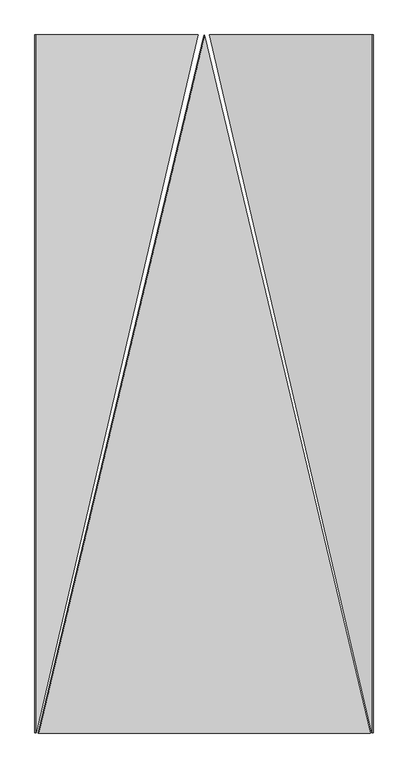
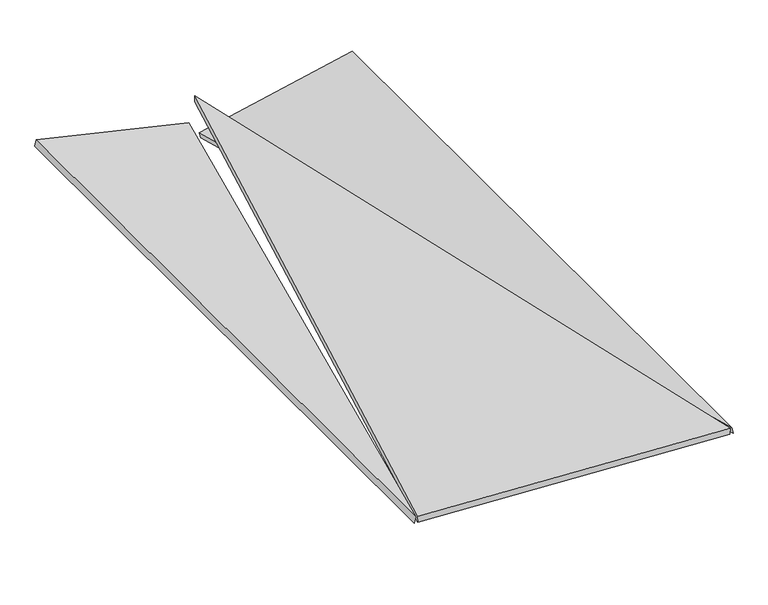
"""IFC4 building model written with IfcOpenShell, lengths in millimetres: proxy geometry, panel sufitowy 6 : panel sufitowy 6."""

from ifc_helpers import new_model, si_unit, frame, origin, place, context, project, spatial, polyline, outline, extrude, source, transform, mapped, element, save


def generic_models_1b4095ce(model_context):
    return source(origin(), model_context, "Body", "SweptSolid", [
        extrude(outline(polyline([(-900.9098917, 1e-07), (1006.1909889, 962.7191946), (1235.4098448, 1e-07), (-900.9098917, 1e-07)])), frame((549.8076335, 1457.4151922, 1155.8211529), z_axis=(0.05233595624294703, 0.0, 0.9986295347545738), x_axis=(-0.2313030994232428, -0.9728062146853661, 0.012122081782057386)), (0.0, 0.0, 1.0), 20.0),
        extrude(outline(polyline([(-127.5, 0.0), (-127.5, -2079.0), (-622.4999999, 0.0), (-127.5, 0.0)])), frame((1386.9334614, 2335.0, 1144.9939621), z_axis=(-0.20791169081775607, 0.0, 0.9781476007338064), x_axis=(0.9781476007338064, 0.0, 0.20791169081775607)), (0.0, 0.0, 1.0), 20.0),
        extrude(outline(polyline([(-127.4999999, 0.0), (-622.5, 0.0), (-127.4999999, 2079.0), (-127.4999999, 0.0)])), frame((129.371629, 2335.0, 1200.0257968), z_axis=(0.22495105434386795, 0.0, 0.9743700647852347), x_axis=(-0.9743700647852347, 0.0, 0.22495105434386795)), (0.0, 0.0, 1.0), 20.0),
    ])


if __name__ == "__main__":
    model = new_model("IFC4")
    model_context = context("Model", 3, world=origin())
    ifc_project = project(units=[si_unit("LENGTHUNIT", "METRE", prefix="MILLI")], contexts=[model_context])
    site = spatial("IfcSite", under=ifc_project)
    building = spatial("IfcBuilding", under=site)
    placement = place(None, origin())
    generic_models_shape = generic_models_1b4095ce(model_context)
    element("IfcBuildingElementProxy", 1, Name="panel sufitowy 6 : panel sufitowy 6", ObjectType="panel sufitowy 6 : panel sufitowy 6", at=placement, inside=building, context=model_context, shape_type="MappedRepresentation", body=[
        mapped(generic_models_shape, transform((0.0, 0.0, 0.0), x_axis=(1.0, 0.0, 0.0), y_axis=(0.0, 1.0, 0.0), z_axis=(0.0, 0.0, 1.0))),
    ])
    save(model, "model.ifc")
